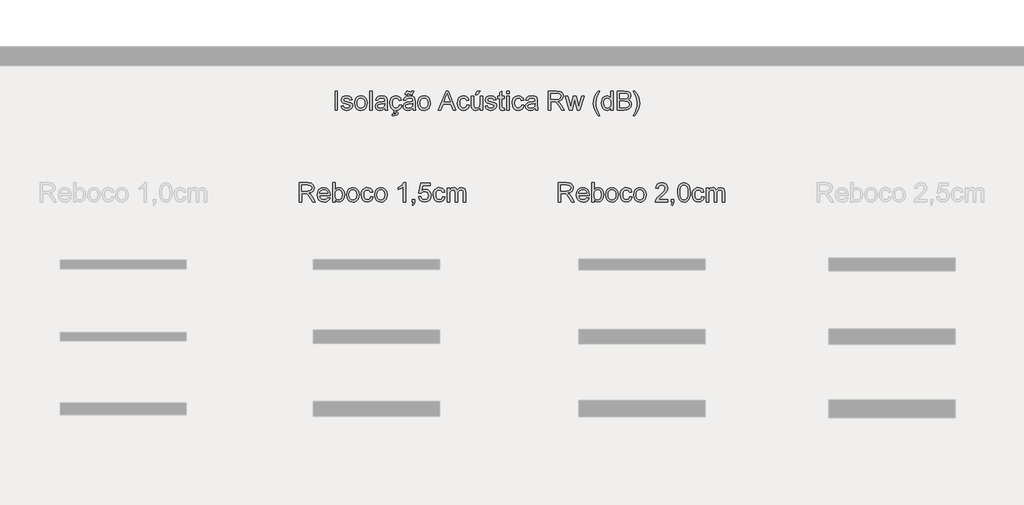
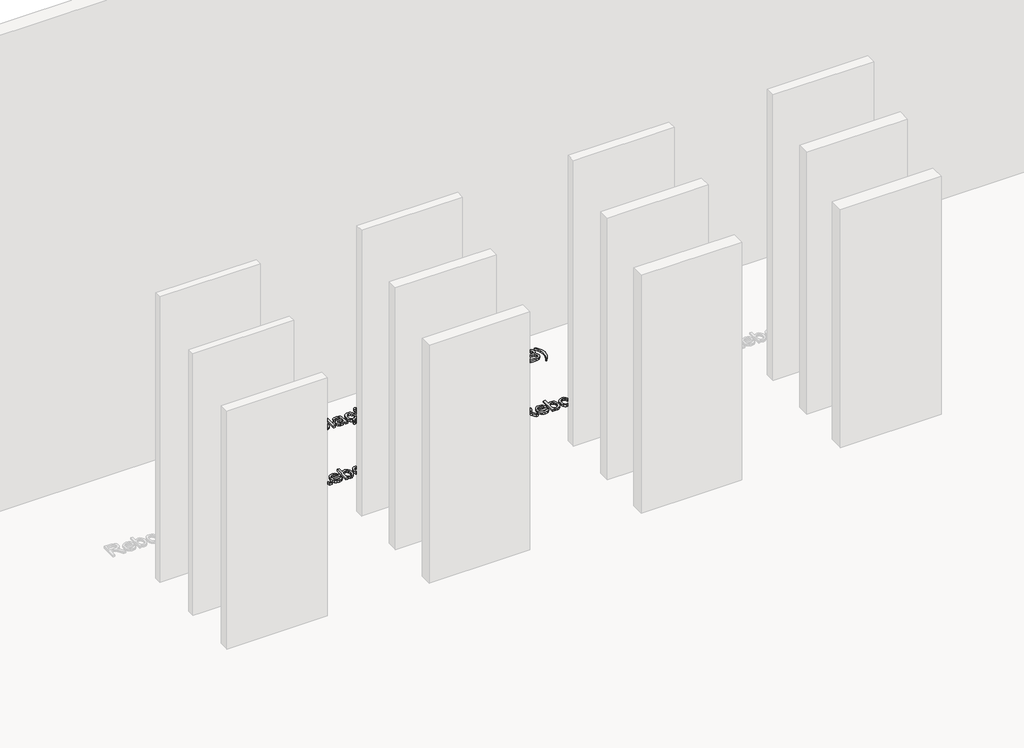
# One storey, part 25 of 26: 3 proxies.
"""IFC4 building model written with IfcOpenShell, lengths in millimetres."""

from ifc_helpers import new_model, si_unit, origin, origin_with_axes, place, context, project, spatial, polyline, outline, extrude, element, save

model = new_model("IFC4")

# Units and contexts
model_context = context("Model", 3, world=origin())
ifc_project = project(units=[si_unit("LENGTHUNIT", "METRE", prefix="MILLI")], contexts=[model_context])

# Site, building, storey
site = spatial("IfcSite", under=ifc_project)
building = spatial("IfcBuilding", under=site)
storey = spatial("IfcBuildingStorey", under=building, Name="Catálogo Celucon", Elevation=0.0)

# Proxies
placement = place(None, origin())
element("IfcBuildingElementProxy", 1, Name="Legenda Tabela de Módulos", ObjectType="Legenda Tabela de Módulos", at=placement, inside=storey, context=model_context, shape_type="SweptSolid", body=[
    extrude(outline(polyline([(12641.6922866, 1853.8954164), (12641.6922866, 2004.5798816), (12660.5278447, 2004.5798816), (12660.5278447, 1853.8954164), (12641.6922866, 1853.8954164)])), origin_with_axes(), (0.0, 0.0, 1.0), 20.0),
    extrude(outline(polyline([(12688.7811819, 1886.8576432), (12707.6167401, 1889.2120879), (12710.5873872, 1881.1554722), (12716.3355434, 1875.2325721), (12736.3115357, 1870.3765298), (12755.5149759, 1874.8279019), (12761.7689698, 1885.2757506), (12760.1962743, 1890.0766106), (12755.4781877, 1893.7370365), (12736.0908065, 1899.1081136), (12707.7271047, 1908.3235576), (12695.3478756, 1919.0841059), (12691.1356267, 1934.2776323), (12694.5201411, 1948.3123305), (12703.7539791, 1959.0360906), (12715.7285381, 1964.6095028), (12731.93374, 1966.9087653), (12754.8527883, 1963.2115513), (12769.4209153, 1953.205161), (12775.8956384, 1936.3009833), (12757.0600803, 1933.9465386), (12749.9783518, 1944.3392049), (12733.405268, 1948.0732072), (12715.3790502, 1944.5047518), (12709.9711849, 1936.1906187), (12712.215265, 1930.709177), (12719.2418111, 1926.5521104), (12735.4654071, 1922.5421967), (12763.1117391, 1913.6762406), (12775.9508207, 1903.6330621), (12780.6045279, 1887.2623134), (12775.1414803, 1869.2360956), (12759.3777368, 1856.1578907), (12736.0540183, 1851.5409716), (12717.0621103, 1853.7666577), (12703.2021562, 1860.4437159), (12693.949924, 1871.4985699), (12688.7811819, 1886.8576432)])), origin_with_axes(), (0.0, 0.0, 1.0), 20.0),
    extrude(outline(polyline([(12797.0856413, 1909.2248685), (12801.1599344, 1935.9055102), (12813.3828137, 1954.6582949), (12828.4843696, 1963.8461477), (12846.5657697, 1966.9087653), (12866.3532225, 1963.1793616), (12882.1583527, 1951.9911504), (12892.5188294, 1934.2270486), (12895.9723216, 1910.7699729), (12894.4456113, 1891.7412767), (12889.8654805, 1877.2559231), (12882.3652863, 1866.4080028), (12872.078386, 1858.2916062), (12859.8601053, 1853.2286303), (12846.5657697, 1851.5409716), (12826.5391936, 1855.2565798), (12810.7524574, 1866.4034042), (12800.5023454, 1884.5399866), (12797.0856413, 1909.2248685)]), holes=[polyline([(12815.9211995, 1909.2616567), (12818.1009003, 1892.2149247), (12824.6400028, 1880.0702204), (12834.4808461, 1872.7999524), (12846.5657697, 1870.3765298), (12858.5955109, 1872.813748), (12868.4179602, 1880.1254027), (12874.9570627, 1892.4310554), (12877.1367635, 1909.8502679), (12874.9432671, 1926.4003591), (12868.3627779, 1938.3795166), (12858.526533, 1945.6497845), (12846.5657697, 1948.0732072), (12834.4808461, 1945.6589816), (12824.6400028, 1938.4163048), (12818.1009003, 1926.2991916), (12815.9211995, 1909.2616567)])]), origin_with_axes(), (0.0, 0.0, 1.0), 20.0),
    extrude(outline(polyline([(12917.1623246, 1853.8954164), (12917.1623246, 2004.5798816), (12935.9978827, 2004.5798816), (12935.9978827, 1853.8954164), (12917.1623246, 1853.8954164)])), origin_with_axes(), (0.0, 0.0, 1.0), 20.0),
    extrude(outline(polyline([(13034.884563, 1868.022085), (13016.6192219, 1855.2565798), (12996.4408945, 1851.5409716), (12980.7001436, 1853.7758548), (12969.0888682, 1860.4805041), (12961.9289648, 1870.6616383), (12959.5423304, 1883.325976), (12963.1475739, 1898.2251968), (12972.6205353, 1909.0409275), (12985.8091049, 1915.221345), (13002.1062772, 1918.0540364), (13034.7741984, 1924.5287595), (13034.884563, 1928.7226142), (13033.587779, 1937.1287178), (13029.6974269, 1942.6285536), (13020.9970177, 1946.7120438), (13008.8753059, 1948.0732072), (12989.8190186, 1944.4495695), (12980.7323333, 1931.5920938), (12961.8967752, 1933.9465386), (12970.0453614, 1952.3406383), (12986.4528983, 1963.1195808), (13011.3033271, 1966.9087653), (13034.1304049, 1963.5610392), (13047.0246688, 1955.1549356), (13052.8004162, 1942.3710362), (13053.7201212, 1925.8899229), (13053.7201212, 1902.4558398), (13054.6766143, 1869.7327363), (13058.4290107, 1853.8954164), (13039.5934525, 1853.8954164), (13034.884563, 1868.022085)]), holes=[polyline([(13034.884563, 1905.6932013), (13004.4975102, 1899.917454), (12988.2923083, 1896.8640334), (12980.9530625, 1891.8976265), (12978.3778885, 1884.6503512), (12983.988089, 1874.4600199), (13000.4508083, 1870.3765298), (13019.5070956, 1874.8830842), (13031.7943542, 1885.7907854), (13034.7741984, 1900.3589124), (13034.884563, 1905.6932013)])]), origin_with_axes(), (0.0, 0.0, 1.0), 20.0),
    extrude(outline(polyline([(13150.2523567, 1893.9209775), (13169.0879148, 1891.5665327), (13163.8363994, 1874.8141064), (13153.9679648, 1862.1543672), (13140.4115133, 1854.1943205), (13123.6043533, 1851.6317985), (13120.9689499, 1843.6682969), (13135.7026238, 1838.6651018), (13140.8345776, 1829.6519929), (13138.9767735, 1822.9013583), (13133.4033613, 1816.9968523), (13124.0775527, 1812.885771), (13110.9625596, 1811.5154106), (13096.100127, 1811.5154106), (13096.100127, 1823.2876344), (13106.5111875, 1823.2876344), (13121.1528909, 1825.4581382), (13124.3534642, 1829.5048401), (13123.0658773, 1832.1719846), (13118.3018054, 1834.1585474), (13107.2837397, 1835.0598582), (13112.5205541, 1853.679643), (13104.0601737, 1855.2427842), (13088.3929992, 1866.3482219), (13078.2808429, 1884.3698412), (13074.9101241, 1908.8201983), (13076.3494624, 1925.5818217), (13080.6674773, 1940.108562), (13087.9331467, 1951.8393991), (13098.2154485, 1960.213313), (13110.5165027, 1965.2349022), (13123.8384294, 1966.9087653), (13139.7539243, 1964.6095028), (13152.4780428, 1957.7117154), (13161.6061148, 1946.5832851), (13166.7334701, 1931.5920938), (13147.8979119, 1929.237649), (13139.1607145, 1943.3459235), (13123.9855822, 1948.0732072), (13111.8132867, 1945.7463535), (13102.1517858, 1938.7657927), (13095.8472081, 1926.7544455), (13093.7456822, 1909.3352331), (13095.8012229, 1891.6814958), (13101.9678448, 1879.628762), (13111.4546018, 1872.6895878), (13123.4705474, 1870.3765298), (13133.2240188, 1871.8204666), (13141.2208537, 1876.1522771), (13147.0379878, 1883.4823259), (13150.2523567, 1893.9209775)])), origin_with_axes(), (0.0, 0.0, 1.0), 20.0),
    extrude(outline(polyline([(13256.2023713, 1868.022085), (13237.9370302, 1855.2565798), (13217.7587028, 1851.5409716), (13202.0179519, 1853.7758548), (13190.4066765, 1860.4805041), (13183.2467731, 1870.6616383), (13180.8601387, 1883.325976), (13184.4653822, 1898.2251968), (13193.9383436, 1909.0409275), (13207.1269131, 1915.221345), (13223.4240855, 1918.0540364), (13256.0920067, 1924.5287595), (13256.2023713, 1928.7226142), (13254.9055873, 1937.1287178), (13251.0152352, 1942.6285536), (13242.314826, 1946.7120438), (13230.1931142, 1948.0732072), (13211.1368269, 1944.4495695), (13202.0501416, 1931.5920938), (13183.2145835, 1933.9465386), (13191.3631697, 1952.3406383), (13207.7707066, 1963.1195808), (13232.6211354, 1966.9087653), (13255.4482132, 1963.5610392), (13268.3424771, 1955.1549356), (13274.1182245, 1942.3710362), (13275.0379295, 1925.8899229), (13275.0379295, 1902.4558398), (13275.9944226, 1869.7327363), (13279.746819, 1853.8954164), (13260.9112608, 1853.8954164), (13256.2023713, 1868.022085)]), holes=[polyline([(13256.2023713, 1905.6932013), (13225.8153185, 1899.917454), (13209.6101166, 1896.8640334), (13202.2708708, 1891.8976265), (13199.6956968, 1884.6503512), (13205.3058973, 1874.4600199), (13221.7686166, 1870.3765298), (13240.8249039, 1874.8830842), (13253.1121625, 1885.7907854), (13256.0920067, 1900.3589124), (13256.2023713, 1905.6932013)])]), origin_with_axes(), (0.0, 0.0, 1.0), 20.0),
    extrude(outline(polyline([(13197.3412521, 1976.3265444), (13198.7667948, 1987.9056302), (13203.1905758, 1996.8911479), (13209.858437, 2002.6576982), (13218.163373, 2004.5798816), (13233.2465348, 1998.5098287), (13240.8616921, 1995.1621025), (13244.8532118, 1997.0566948), (13246.7845922, 2004.5798816), (13263.2657056, 2004.5798816), (13261.6240322, 1992.2190466), (13257.2876232, 1983.3898787), (13250.8358927, 1978.092378), (13242.8482549, 1976.3265444), (13227.9490341, 1982.0655035), (13220.002783, 1985.7443235), (13215.5146226, 1983.3530905), (13213.8223655, 1976.3265444), (13197.3412521, 1976.3265444)])), origin_with_axes(), (0.0, 0.0, 1.0), 20.0),
    extrude(outline(polyline([(13296.2279324, 1909.2248685), (13300.3022255, 1935.9055102), (13312.5251048, 1954.6582949), (13327.6266607, 1963.8461477), (13345.7080607, 1966.9087653), (13365.4955135, 1963.1793616), (13381.3006438, 1951.9911504), (13391.6611205, 1934.2270486), (13395.1146127, 1910.7699729), (13393.5879024, 1891.7412767), (13389.0077716, 1877.2559231), (13381.5075774, 1866.4080028), (13371.2206771, 1858.2916062), (13359.0023963, 1853.2286303), (13345.7080607, 1851.5409716), (13325.6814846, 1855.2565798), (13309.8947485, 1866.4034042), (13299.6446364, 1884.5399866), (13296.2279324, 1909.2248685)]), holes=[polyline([(13315.0634905, 1909.2616567), (13317.2431914, 1892.2149247), (13323.7822938, 1880.0702204), (13333.6231372, 1872.7999524), (13345.7080607, 1870.3765298), (13357.737802, 1872.813748), (13367.5602512, 1880.1254027), (13374.0993537, 1892.4310554), (13376.2790545, 1909.8502679), (13374.0855581, 1926.4003591), (13367.5050689, 1938.3795166), (13357.6688241, 1945.6497845), (13345.7080607, 1948.0732072), (13333.6231372, 1945.6589816), (13323.7822938, 1938.4163048), (13317.2431914, 1926.2991916), (13315.0634905, 1909.2616567)])]), origin_with_axes(), (0.0, 0.0, 1.0), 20.0),
    extrude(outline(polyline([(13459.9722084, 1853.8954164), (13520.1209146, 2004.5798816), (13536.1605696, 2004.5798816), (13596.3092758, 1853.8954164), (13576.4068599, 1853.8954164), (13559.1531943, 1900.9843118), (13497.0915017, 1900.9843118), (13479.8746244, 1853.8954164), (13459.9722084, 1853.8954164)]), holes=[polyline([(13504.0076833, 1919.8198699), (13552.273801, 1919.8198699), (13538.6989554, 1956.8655869), (13528.1407421, 1985.7443235), (13518.7597513, 1960.1029484), (13504.0076833, 1919.8198699)])]), origin_with_axes(), (0.0, 0.0, 1.0), 20.0),
    extrude(outline(polyline([(13684.7113193, 1893.9209775), (13703.5468774, 1891.5665327), (13698.295362, 1874.8141064), (13688.4269274, 1862.1543672), (13674.8704759, 1854.1943205), (13658.5549094, 1851.5409716), (13638.5191363, 1855.2427842), (13622.8519618, 1866.3482219), (13612.7398055, 1884.3698412), (13609.3690867, 1908.8201983), (13610.808425, 1925.5818217), (13615.1264399, 1940.108562), (13622.3921093, 1951.8393991), (13632.6744111, 1960.213313), (13644.9754653, 1965.2349022), (13658.297392, 1966.9087653), (13674.2128869, 1964.6095028), (13686.9370054, 1957.7117154), (13696.0650774, 1946.5832851), (13701.1924327, 1931.5920938), (13682.3568745, 1929.237649), (13673.6196771, 1943.3459235), (13658.4445448, 1948.0732072), (13646.2722493, 1945.7463535), (13636.6107484, 1938.7657927), (13630.3061707, 1926.7544455), (13628.2046448, 1909.3352331), (13630.2601855, 1891.6814958), (13636.4268074, 1879.628762), (13645.9135644, 1872.6895878), (13657.92951, 1870.3765298), (13667.6829814, 1871.8204666), (13675.6798163, 1876.1522771), (13681.4969504, 1883.4823259), (13684.7113193, 1893.9209775)])), origin_with_axes(), (0.0, 0.0, 1.0), 20.0),
    extrude(outline(polyline([(13790.6613339, 1853.8954164), (13790.6613339, 1872.9149156), (13775.9092659, 1856.8844576), (13756.6690375, 1851.5409716), (13738.9555195, 1855.293368), (13726.7418372, 1864.7111471), (13721.1316368, 1878.5802983), (13720.0279908, 1896.0914812), (13720.0279908, 1964.5543206), (13738.863549, 1964.5543206), (13738.863549, 1904.9574373), (13740.0039832, 1885.7539972), (13747.4535936, 1874.478414), (13761.4882917, 1870.3765298), (13777.215247, 1874.5703845), (13787.6079133, 1885.9931205), (13790.6613339, 1906.9807883), (13790.6613339, 1964.5543206), (13809.4968921, 1964.5543206), (13809.4968921, 1853.8954164), (13790.6613339, 1853.8954164)])), origin_with_axes(), (0.0, 0.0, 1.0), 20.0),
    extrude(outline(polyline([(13752.9902176, 1976.3265444), (13767.1168862, 2004.5798816), (13790.6613339, 2004.5798816), (13767.1168862, 1976.3265444), (13752.9902176, 1976.3265444)])), origin_with_axes(), (0.0, 0.0, 1.0), 20.0),
    extrude(outline(polyline([(13828.3324502, 1886.8576432), (13847.1680084, 1889.2120879), (13850.1386555, 1881.1554722), (13855.8868116, 1875.2325721), (13875.862804, 1870.3765298), (13895.0662441, 1874.8279019), (13901.320238, 1885.2757506), (13899.7475425, 1890.0766106), (13895.0294559, 1893.7370365), (13875.6420748, 1899.1081136), (13847.278373, 1908.3235576), (13834.8991438, 1919.0841059), (13830.686895, 1934.2776323), (13834.0714093, 1948.3123305), (13843.3052474, 1959.0360906), (13855.2798064, 1964.6095028), (13871.4850082, 1966.9087653), (13894.4040565, 1963.2115513), (13908.9721835, 1953.205161), (13915.4469067, 1936.3009833), (13896.6113485, 1933.9465386), (13889.5296201, 1944.3392049), (13872.9565362, 1948.0732072), (13854.9303185, 1944.5047518), (13849.5224531, 1936.1906187), (13851.7665333, 1930.709177), (13858.7930794, 1926.5521104), (13875.0166754, 1922.5421967), (13902.6630073, 1913.6762406), (13915.502089, 1903.6330621), (13920.1557962, 1887.2623134), (13914.6927486, 1869.2360956), (13898.9290051, 1856.1578907), (13875.6052866, 1851.5409716), (13856.6133786, 1853.7666577), (13842.7534244, 1860.4437159), (13833.5011922, 1871.4985699), (13828.3324502, 1886.8576432)])), origin_with_axes(), (0.0, 0.0, 1.0), 20.0),
    extrude(outline(polyline([(13981.3713602, 1869.6039776), (13983.725805, 1853.3435934), (13969.6359246, 1851.5409716), (13953.853787, 1854.6679686), (13945.9811123, 1862.8717371), (13943.7002439, 1884.245681), (13943.7002439, 1945.7187624), (13929.5735753, 1945.7187624), (13929.5735753, 1964.5543206), (13943.7002439, 1964.5543206), (13943.7002439, 1991.4464944), (13962.535802, 2002.5197425), (13962.535802, 1964.5543206), (13981.3713602, 1964.5543206), (13981.3713602, 1945.7187624), (13962.535802, 1945.7187624), (13962.535802, 1884.797504), (13963.5290834, 1875.0854193), (13966.7480509, 1871.6457227), (13973.1675917, 1870.3765298), (13981.3713602, 1869.6039776)])), origin_with_axes(), (0.0, 0.0, 1.0), 20.0),
    extrude(outline(polyline([(14000.2069184, 1985.7443235), (14000.2069184, 2004.5798816), (14019.0424765, 2004.5798816), (14019.0424765, 1985.7443235), (14000.2069184, 1985.7443235)])), origin_with_axes(), (0.0, 0.0, 1.0), 20.0),
    extrude(outline(polyline([(14000.2069184, 1853.8954164), (14000.2069184, 1964.5543206), (14019.0424765, 1964.5543206), (14019.0424765, 1853.8954164), (14000.2069184, 1853.8954164)])), origin_with_axes(), (0.0, 0.0, 1.0), 20.0),
    extrude(outline(polyline([(14117.9291568, 1893.9209775), (14136.764715, 1891.5665327), (14131.5131995, 1874.8141064), (14121.644765, 1862.1543672), (14108.0883134, 1854.1943205), (14091.772747, 1851.5409716), (14071.7369738, 1855.2427842), (14056.0697993, 1866.3482219), (14045.957643, 1884.3698412), (14042.5869242, 1908.8201983), (14044.0262625, 1925.5818217), (14048.3442774, 1940.108562), (14055.6099468, 1951.8393991), (14065.8922486, 1960.213313), (14078.1933028, 1965.2349022), (14091.5152296, 1966.9087653), (14107.4307244, 1964.6095028), (14120.1548429, 1957.7117154), (14129.2829149, 1946.5832851), (14134.4102702, 1931.5920938), (14115.574712, 1929.237649), (14106.8375147, 1943.3459235), (14091.6623824, 1948.0732072), (14079.4900868, 1945.7463535), (14069.8285859, 1938.7657927), (14063.5240082, 1926.7544455), (14061.4224823, 1909.3352331), (14063.478023, 1891.6814958), (14069.6446449, 1879.628762), (14079.1314019, 1872.6895878), (14091.1473476, 1870.3765298), (14100.900819, 1871.8204666), (14108.8976538, 1876.1522771), (14114.7147879, 1883.4823259), (14117.9291568, 1893.9209775)])), origin_with_axes(), (0.0, 0.0, 1.0), 20.0),
    extrude(outline(polyline([(14223.8791714, 1868.022085), (14205.6138304, 1855.2565798), (14185.4355029, 1851.5409716), (14169.6947521, 1853.7758548), (14158.0834766, 1860.4805041), (14150.9235733, 1870.6616383), (14148.5369388, 1883.325976), (14152.1421824, 1898.2251968), (14161.6151437, 1909.0409275), (14174.8037133, 1915.221345), (14191.1008856, 1918.0540364), (14223.7688068, 1924.5287595), (14223.8791714, 1928.7226142), (14222.5823874, 1937.1287178), (14218.6920353, 1942.6285536), (14209.9916261, 1946.7120438), (14197.8699144, 1948.0732072), (14178.813627, 1944.4495695), (14169.7269417, 1931.5920938), (14150.8913836, 1933.9465386), (14159.0399698, 1952.3406383), (14175.4475068, 1963.1195808), (14200.2979355, 1966.9087653), (14223.1250133, 1963.5610392), (14236.0192773, 1955.1549356), (14241.7950246, 1942.3710362), (14242.7147296, 1925.8899229), (14242.7147296, 1902.4558398), (14243.6712228, 1869.7327363), (14247.4236191, 1853.8954164), (14228.588061, 1853.8954164), (14223.8791714, 1868.022085)]), holes=[polyline([(14223.8791714, 1905.6932013), (14193.4921186, 1899.917454), (14177.2869167, 1896.8640334), (14169.9476709, 1891.8976265), (14167.372497, 1884.6503512), (14172.9826974, 1874.4600199), (14189.4454167, 1870.3765298), (14208.501704, 1874.8830842), (14220.7889627, 1885.7907854), (14223.7688068, 1900.3589124), (14223.8791714, 1905.6932013)])]), origin_with_axes(), (0.0, 0.0, 1.0), 20.0),
    extrude(outline(polyline([(14329.829186, 1853.8954164), (14329.829186, 2004.5798816), (14394.7603582, 2004.5798816), (14424.9082877, 2000.5147856), (14434.188111, 1994.8861911), (14441.3894011, 1986.1305996), (14446.0109186, 1975.2734822), (14447.5514245, 1963.34031), (14444.9992431, 1948.4962715), (14437.3426991, 1936.1906187), (14424.3518662, 1927.1683128), (14405.796818, 1922.1743147), (14416.5021841, 1914.117699), (14431.7692869, 1894.7303179), (14456.8956272, 1853.8954164), (14435.0066485, 1853.8954164), (14415.3985381, 1885.1285978), (14401.2350813, 1905.8035659), (14391.2838733, 1915.5708329), (14382.3259467, 1919.1576823), (14371.3998515, 1919.8198699), (14348.6647442, 1919.8198699), (14348.6647442, 1853.8954164), (14329.829186, 1853.8954164)]), holes=[polyline([(14348.6647442, 1938.6554281), (14390.8240208, 1938.6554281), (14412.3267234, 1941.3225726), (14424.5404057, 1949.8574348), (14428.7158663, 1962.6413342), (14426.724705, 1971.829187), (14420.7512211, 1979.2328122), (14410.4735179, 1984.1164456), (14395.5696986, 1985.7443235), (14348.6647442, 1985.7443235), (14348.6647442, 1938.6554281)])]), origin_with_axes(), (0.0, 0.0, 1.0), 20.0),
    extrude(outline(polyline([(14496.516518, 1853.8954164), (14462.8553155, 1964.5543206), (14482.4266376, 1964.5543206), (14501.5197132, 1899.9910304), (14507.2218841, 1876.9248293), (14511.8939854, 1899.1449018), (14527.0875118, 1964.5543206), (14549.5283135, 1964.5543206), (14564.6482636, 1899.3288428), (14568.8053301, 1879.2056977), (14574.7650184, 1900.4324888), (14593.8948822, 1964.5543206), (14613.5397807, 1964.5543206), (14579.6210608, 1853.8954164), (14556.8491653, 1853.8954164), (14542.3914028, 1918.7898004), (14538.1975481, 1939.0233101), (14519.5459309, 1853.8954164), (14496.516518, 1853.8954164)])), origin_with_axes(), (0.0, 0.0, 1.0), 20.0),
    extrude(outline(polyline([(14723.0214625, 1811.5154106), (14708.4257443, 1831.9972406), (14696.2764414, 1855.6980382), (14688.08187, 1881.4681719), (14685.3503462, 1908.1580107), (14687.3920912, 1931.5645026), (14693.5173265, 1953.9593191), (14705.6758264, 1979.3247827), (14723.0214625, 2004.5798816), (14737.1481311, 2004.5798816), (14719.5265835, 1974.7446518), (14708.9315821, 1945.829127), (14704.1859043, 1908.0476461), (14706.2460435, 1883.9007916), (14712.426461, 1859.7631342), (14722.7271569, 1835.6346739), (14737.1481311, 1811.5154106), (14723.0214625, 1811.5154106)])), origin_with_axes(), (0.0, 0.0, 1.0), 20.0),
    extrude(outline(polyline([(14824.2625875, 1853.8954164), (14824.2625875, 1871.6641168), (14811.800585, 1856.5717579), (14794.5745105, 1851.5409716), (14782.3976165, 1853.3619875), (14771.250792, 1858.8250351), (14761.8146189, 1867.5484369), (14754.7696787, 1879.1505154), (14750.3826859, 1893.1622209), (14748.9203549, 1909.1145039), (14754.3098262, 1939.0968865), (14761.0420667, 1950.988672), (14770.4598458, 1959.7350664), (14781.850392, 1965.1153406), (14794.5009341, 1966.9087653), (14811.8649643, 1961.7768115), (14824.2625875, 1948.4410892), (14824.2625875, 2004.5798816), (14843.0981457, 2004.5798816), (14843.0981457, 1853.8954164), (14824.2625875, 1853.8954164)]), holes=[polyline([(14767.7559131, 1909.1880803), (14769.8804316, 1892.1505454), (14776.2539872, 1880.0334322), (14785.5154164, 1872.7907554), (14796.3035559, 1870.3765298), (14807.0870969, 1872.6803908), (14816.1140014, 1879.5919738), (14822.225441, 1891.2400374), (14824.2625875, 1907.7533405), (14822.1886528, 1925.8071494), (14815.9668486, 1938.3243343), (14806.7100179, 1945.6359889), (14795.5310037, 1948.0732072), (14784.6324996, 1945.732558), (14775.7021642, 1938.7106104), (14769.7424759, 1926.6486795), (14767.7559131, 1909.1880803)])]), origin_with_axes(), (0.0, 0.0, 1.0), 20.0),
    extrude(outline(polyline([(14873.7059277, 1853.8954164), (14873.7059277, 2004.5798816), (14931.2058835, 2004.5798816), (14959.3672503, 2000.1469036), (14968.8310146, 1994.5229076), (14975.9955165, 1986.5168757), (14982.0103871, 1967.2398591), (14976.9520096, 1949.6367056), (14961.6665127, 1936.3009833), (14972.3396891, 1930.7275711), (14980.2261594, 1922.2478911), (14985.0959973, 1911.4229634), (14986.7192766, 1898.813808), (14982.2862986, 1878.5619042), (14971.305021, 1864.14093), (14954.9158781, 1856.4889845), (14930.7644252, 1853.8954164), (14873.7059277, 1853.8954164)]), holes=[polyline([(14892.5414859, 1943.3643176), (14926.9384524, 1943.3643176), (14947.0248093, 1944.9829984), (14959.1097329, 1951.9543622), (14963.1748289, 1964.2232268), (14959.3856444, 1976.5104854), (14948.5331255, 1983.7761548), (14924.3264902, 1985.7443235), (14892.5414859, 1985.7443235), (14892.5414859, 1943.3643176)]), polyline([(14892.5414859, 1872.7309746), (14931.1690953, 1872.7309746), (14945.1486112, 1873.4667385), (14956.9760173, 1877.5686228), (14964.8119038, 1885.9379382), (14967.8837185, 1898.629867), (14964.2784749, 1913.2715704), (14952.5982216, 1922.0087678), (14929.3296854, 1924.5287595), (14892.5414859, 1924.5287595), (14892.5414859, 1872.7309746)])]), origin_with_axes(), (0.0, 0.0, 1.0), 20.0),
    extrude(outline(polyline([(15014.9726138, 1811.5154106), (15000.8459452, 1811.5154106), (15015.2669194, 1835.6346739), (15025.5676153, 1859.7631342), (15031.7480328, 1883.9007916), (15033.808172, 1908.0476461), (15029.0624943, 1945.4980332), (15018.5778574, 1974.4503462), (15000.8459452, 2004.5798816), (15014.9726138, 2004.5798816), (15032.3182499, 1979.3247827), (15044.4767499, 1953.9593191), (15050.6019851, 1931.5645026), (15052.6437302, 1908.1580107), (15049.8984108, 1881.4681719), (15041.6624526, 1855.6980382), (15029.4993541, 1831.9972406), (15014.9726138, 1811.5154106)])), origin_with_axes(), (0.0, 0.0, 1.0), 20.0),
])
element("IfcBuildingElementProxy", 2, Name="Legenda Tabela de Módulos", ObjectType="Legenda Tabela de Módulos", at=placement, inside=storey, context=model_context, shape_type="SweptSolid", body=[
    extrude(outline(polyline([(12358.7723044, 1127.4713313), (12358.7723044, 1278.1557966), (12423.7034766, 1278.1557966), (12453.8514061, 1274.0907005), (12463.1312294, 1268.462106), (12470.3325195, 1259.7065145), (12474.954037, 1248.8493971), (12476.4945429, 1236.9162249), (12473.9423616, 1222.0721864), (12466.2858175, 1209.7665337), (12453.2949846, 1200.7442277), (12434.7399364, 1195.7502297), (12445.4453025, 1187.693614), (12460.7124053, 1168.3062328), (12485.8387456, 1127.4713313), (12463.9497669, 1127.4713313), (12444.3416565, 1158.7045127), (12430.1781997, 1179.3794809), (12420.2269917, 1189.1467478), (12411.2690651, 1192.7335973), (12400.3429699, 1193.3957849), (12377.6078626, 1193.3957849), (12377.6078626, 1127.4713313), (12358.7723044, 1127.4713313)]), holes=[polyline([(12377.6078626, 1212.231343), (12419.7671392, 1212.231343), (12441.2698419, 1214.8984875), (12453.4835241, 1223.4333498), (12457.6589847, 1236.2172491), (12455.6678234, 1245.405102), (12449.6943395, 1252.8087271), (12439.4166363, 1257.6923606), (12424.512817, 1259.3202384), (12377.6078626, 1259.3202384), (12377.6078626, 1212.231343)])]), origin_with_axes(), (0.0, 0.0, 1.0), 20.0),
    extrude(outline(polyline([(12584.5782731, 1160.4335581), (12603.0459492, 1158.0791133), (12596.3918836, 1144.1639769), (12585.7738896, 1133.7621135), (12571.4310903, 1127.2781933), (12553.6026091, 1125.1168866), (12531.5020982, 1128.8462903), (12514.496753, 1140.0345015), (12503.6534312, 1157.9549532), (12500.0389906, 1181.8810784), (12503.6902194, 1206.6119456), (12514.6439058, 1225.1072129), (12531.4193248, 1236.6403134), (12552.5357513, 1240.4846803), (12572.9945888, 1236.6495105), (12589.3423449, 1225.1440011), (12600.0615065, 1206.685522), (12603.6345604, 1181.991443), (12603.5241958, 1176.9146715), (12518.8745487, 1176.9146715), (12522.1349029, 1162.815594), (12529.7086735, 1152.4505188), (12540.6393673, 1146.0769633), (12553.9704911, 1143.9524447), (12572.4381672, 1147.8887821), (12584.5782731, 1160.4335581)]), holes=[polyline([(12518.8745487, 1195.7502297), (12584.7990023, 1195.7502297), (12582.2514195, 1205.7014376), (12577.2574214, 1212.8199542), (12566.2761438, 1219.4418301), (12552.4621749, 1221.6491221), (12539.7656475, 1219.8878871), (12529.2672151, 1214.6041819), (12521.969356, 1206.3682237), (12518.8745487, 1195.7502297)])]), origin_with_axes(), (0.0, 0.0, 1.0), 20.0),
    extrude(outline(polyline([(12641.3056767, 1127.4713313), (12622.4701186, 1127.4713313), (12622.4701186, 1278.1557966), (12641.3056767, 1278.1557966), (12641.3056767, 1222.2745215), (12654.4942463, 1235.9321406), (12670.8833891, 1240.4846803), (12689.7557355, 1236.382796), (12704.3974389, 1224.8496955), (12713.3921537, 1206.9154482), (12716.6479093, 1184.4562524), (12713.2771906, 1159.311518), (12703.1650342, 1140.6047186), (12688.3255942, 1128.9888446), (12670.7730245, 1125.1168866), (12654.0251967, 1130.1108847), (12641.3056767, 1145.0928789), (12641.3056767, 1127.4713313)]), holes=[polyline([(12641.3056767, 1183.5733356), (12642.5932637, 1167.8647744), (12646.4560247, 1157.2329848), (12656.3244592, 1147.2725797), (12669.1543438, 1143.9524447), (12680.0252567, 1146.39886), (12689.3142771, 1153.7381058), (12695.6878327, 1165.9241969), (12697.8123512, 1182.911148), (12695.7752046, 1200.1464195), (12689.663765, 1212.1945548), (12680.6644517, 1219.2854803), (12669.9636842, 1221.6491221), (12659.0927712, 1219.2027068), (12649.8037508, 1211.863461), (12643.4301953, 1199.8980991), (12641.3056767, 1183.5733356)])]), origin_with_axes(), (0.0, 0.0, 1.0), 20.0),
    extrude(outline(polyline([(12733.1290227, 1182.8007834), (12737.2033158, 1209.4814251), (12749.4261951, 1228.2342098), (12764.527751, 1237.4220627), (12782.6091511, 1240.4846803), (12802.3966039, 1236.7552765), (12818.2017341, 1225.5670654), (12828.5622108, 1207.8029635), (12832.015703, 1184.3458878), (12830.4889928, 1165.3171916), (12825.9088619, 1150.831838), (12818.4086677, 1139.9839177), (12808.1217674, 1131.8675212), (12795.9034867, 1126.8045452), (12782.6091511, 1125.1168866), (12762.582575, 1128.8324947), (12746.7958388, 1139.9793192), (12736.5457268, 1158.1159015), (12733.1290227, 1182.8007834)]), holes=[polyline([(12751.9645809, 1182.8375716), (12754.1442817, 1165.7908397), (12760.6833842, 1153.6461353), (12770.5242275, 1146.3758674), (12782.6091511, 1143.9524447), (12794.6388923, 1146.3896629), (12804.4613416, 1153.7013176), (12811.0004441, 1166.0069703), (12813.1801449, 1183.4261828), (12810.9866485, 1199.9762741), (12804.4061593, 1211.9554315), (12794.5699144, 1219.2256995), (12782.6091511, 1221.6491221), (12770.5242275, 1219.2348965), (12760.6833842, 1211.9922197), (12754.1442817, 1199.8751065), (12751.9645809, 1182.8375716)])]), origin_with_axes(), (0.0, 0.0, 1.0), 20.0),
    extrude(outline(polyline([(12923.839049, 1167.4968924), (12942.6746072, 1165.1424477), (12937.4230917, 1148.3900213), (12927.5546572, 1135.7302821), (12913.9982057, 1127.7702355), (12897.6826392, 1125.1168866), (12877.646866, 1128.8186992), (12861.9796915, 1139.9241369), (12851.8675352, 1157.9457561), (12848.4968164, 1182.3961132), (12849.9361547, 1199.1577366), (12854.2541696, 1213.6844769), (12861.519839, 1225.415314), (12871.8021408, 1233.789228), (12884.103195, 1238.8108172), (12897.4251218, 1240.4846803), (12913.3406166, 1238.1854178), (12926.0647351, 1231.2876304), (12935.1928071, 1220.1592), (12940.3201624, 1205.1680087), (12921.4846043, 1202.813564), (12912.7474069, 1216.9218385), (12897.5722746, 1221.6491221), (12885.3999791, 1219.3222685), (12875.7384782, 1212.3417076), (12869.4339005, 1200.3303605), (12867.3323746, 1182.911148), (12869.3879152, 1165.2574108), (12875.5545372, 1153.2046769), (12885.0412941, 1146.2655028), (12897.0572398, 1143.9524447), (12906.8107112, 1145.3963816), (12914.807546, 1149.7281921), (12920.6246801, 1157.0582408), (12923.839049, 1167.4968924)])), origin_with_axes(), (0.0, 0.0, 1.0), 20.0),
    extrude(outline(polyline([(12954.446831, 1182.8007834), (12958.5211241, 1209.4814251), (12970.7440034, 1228.2342098), (12985.8455593, 1237.4220627), (13003.9269594, 1240.4846803), (13023.7144122, 1236.7552765), (13039.5195424, 1225.5670654), (13049.8800191, 1207.8029635), (13053.3335113, 1184.3458878), (13051.8068011, 1165.3171916), (13047.2266702, 1150.831838), (13039.726476, 1139.9839177), (13029.4395757, 1131.8675212), (13017.221295, 1126.8045452), (13003.9269594, 1125.1168866), (12983.9003833, 1128.8324947), (12968.1136471, 1139.9793192), (12957.8635351, 1158.1159015), (12954.446831, 1182.8007834)]), holes=[polyline([(12973.2823892, 1182.8375716), (12975.46209, 1165.7908397), (12982.0011925, 1153.6461353), (12991.8420358, 1146.3758674), (13003.9269594, 1143.9524447), (13015.9567006, 1146.3896629), (13025.7791499, 1153.7013176), (13032.3182524, 1166.0069703), (13034.4979532, 1183.4261828), (13032.3044568, 1199.9762741), (13025.7239676, 1211.9554315), (13015.8877227, 1219.2256995), (13003.9269594, 1221.6491221), (12991.8420358, 1219.2348965), (12982.0011925, 1211.9922197), (12975.46209, 1199.8751065), (12973.2823892, 1182.8375716)])]), origin_with_axes(), (0.0, 0.0, 1.0), 20.0),
    extrude(outline(polyline([(13199.309087, 1127.4713313), (13180.4735289, 1127.4713313), (13180.4735289, 1244.8992642), (13162.6312521, 1232.1889413), (13142.8024126, 1222.6791917), (13142.8024126, 1240.4846803), (13170.4119563, 1258.1062278), (13187.1689812, 1278.1557966), (13199.309087, 1278.1557966), (13199.309087, 1127.4713313)])), origin_with_axes(), (0.0, 0.0, 1.0), 20.0),
    extrude(outline(polyline([(13253.4613167, 1127.4713313), (13253.4613167, 1146.3068895), (13272.2968749, 1146.3068895), (13272.2968749, 1127.4713313), (13268.9123605, 1108.2127089), (13258.1702062, 1096.8635493), (13253.4613167, 1103.9268837), (13260.3774982, 1112.0570758), (13262.8423076, 1127.4713313), (13253.4613167, 1127.4713313)])), origin_with_axes(), (0.0, 0.0, 1.0), 20.0),
    extrude(outline(polyline([(13302.9046569, 1167.4968924), (13321.740215, 1169.8513372), (13325.1983058, 1158.5435644), (13331.2315705, 1150.4455619), (13339.812418, 1145.575724), (13350.9132572, 1143.9524447), (13364.4145265, 1146.2103205), (13374.5312813, 1152.9839477), (13380.8496546, 1163.4915772), (13382.955779, 1176.9514597), (13380.9830118, 1189.6249944), (13375.0647102, 1199.318685), (13365.154889, 1205.4715114), (13351.2075628, 1207.5224535), (13334.6712671, 1204.2483037), (13324.0946598, 1195.7502297), (13305.2591016, 1198.1046744), (13321.740215, 1275.8013518), (13394.7280029, 1275.8013518), (13394.7280029, 1256.9657937), (13336.9705296, 1256.9657937), (13328.9139139, 1215.4687046), (13342.3691979, 1223.6356849), (13356.4682754, 1226.3580117), (13374.0668303, 1222.9826943), (13388.676344, 1212.8567424), (13398.5125889, 1197.4240927), (13401.7913372, 1178.1286821), (13398.8390842, 1159.2931239), (13389.9823251, 1143.1798925), (13373.0229651, 1129.6326381), (13350.8396808, 1125.1168866), (13332.339815, 1128.0185558), (13317.6015426, 1136.7235635), (13307.4985833, 1150.2202342), (13302.9046569, 1167.4968924)])), origin_with_axes(), (0.0, 0.0, 1.0), 20.0),
    extrude(outline(polyline([(13493.6146832, 1167.4968924), (13512.4502413, 1165.1424477), (13507.1987258, 1148.3900213), (13497.3302913, 1135.7302821), (13483.7738398, 1127.7702355), (13467.4582733, 1125.1168866), (13447.4225001, 1128.8186992), (13431.7553257, 1139.9241369), (13421.6431693, 1157.9457561), (13418.2724505, 1182.3961132), (13419.7117889, 1199.1577366), (13424.0298038, 1213.6844769), (13431.2954732, 1225.415314), (13441.5777749, 1233.789228), (13453.8788292, 1238.8108172), (13467.2007559, 1240.4846803), (13483.1162507, 1238.1854178), (13495.8403692, 1231.2876304), (13504.9684412, 1220.1592), (13510.0957965, 1205.1680087), (13491.2602384, 1202.813564), (13482.523041, 1216.9218385), (13467.3479087, 1221.6491221), (13455.1756132, 1219.3222685), (13445.5141123, 1212.3417076), (13439.2095346, 1200.3303605), (13437.1080087, 1182.911148), (13439.1635493, 1165.2574108), (13445.3301713, 1153.2046769), (13454.8169282, 1146.2655028), (13466.8328739, 1143.9524447), (13476.5863453, 1145.3963816), (13484.5831802, 1149.7281921), (13490.4003142, 1157.0582408), (13493.6146832, 1167.4968924)])), origin_with_axes(), (0.0, 0.0, 1.0), 20.0),
    extrude(outline(polyline([(13528.9313547, 1127.4713313), (13528.9313547, 1238.1302355), (13547.7669128, 1238.1302355), (13547.7669128, 1219.9200767), (13560.7163591, 1234.8376916), (13579.147247, 1240.4846803), (13589.6226868, 1239.045342), (13598.0195934, 1234.727327), (13608.3938657, 1218.5957016), (13623.0907514, 1235.0124356), (13641.650398, 1240.4846803), (13655.8092563, 1238.2084104), (13666.2800976, 1231.3796009), (13672.7502222, 1219.8143107), (13674.9069304, 1203.3285988), (13674.9069304, 1127.4713313), (13656.0713722, 1127.4713313), (13656.0713722, 1195.2351949), (13654.3239328, 1210.9621502), (13647.9963624, 1218.7060662), (13637.2358141, 1221.6491221), (13627.0316872, 1219.7637269), (13618.7129556, 1214.1075412), (13613.1809301, 1204.294289), (13611.3369216, 1189.9376941), (13611.3369216, 1127.4713313), (13592.5013635, 1127.4713313), (13592.5013635, 1197.3321222), (13588.1419618, 1215.5790692), (13582.3892071, 1220.1316089), (13573.8497463, 1221.6491221), (13559.9070187, 1217.6024202), (13550.6363924, 1205.7566199), (13547.7669128, 1183.27903), (13547.7669128, 1127.4713313), (13528.9313547, 1127.4713313)])), origin_with_axes(), (0.0, 0.0, 1.0), 20.0),
])
element("IfcBuildingElementProxy", 3, Name="Legenda Tabela de Módulos", ObjectType="Legenda Tabela de Módulos", at=placement, inside=storey, context=model_context, shape_type="SweptSolid", body=[
    extrude(outline(polyline([(14408.7723044, 1127.4713313), (14408.7723044, 1278.1557966), (14473.7034766, 1278.1557966), (14503.8514061, 1274.0907005), (14513.1312294, 1268.462106), (14520.3325195, 1259.7065145), (14524.954037, 1248.8493971), (14526.4945429, 1236.9162249), (14523.9423616, 1222.0721864), (14516.2858175, 1209.7665337), (14503.2949846, 1200.7442277), (14484.7399364, 1195.7502297), (14495.4453025, 1187.693614), (14510.7124053, 1168.3062328), (14535.8387456, 1127.4713313), (14513.9497669, 1127.4713313), (14494.3416565, 1158.7045127), (14480.1781997, 1179.3794809), (14470.2269917, 1189.1467478), (14461.2690651, 1192.7335973), (14450.3429699, 1193.3957849), (14427.6078626, 1193.3957849), (14427.6078626, 1127.4713313), (14408.7723044, 1127.4713313)]), holes=[polyline([(14427.6078626, 1212.231343), (14469.7671392, 1212.231343), (14491.2698419, 1214.8984875), (14503.4835241, 1223.4333498), (14507.6589847, 1236.2172491), (14505.6678234, 1245.405102), (14499.6943395, 1252.8087271), (14489.4166363, 1257.6923606), (14474.512817, 1259.3202384), (14427.6078626, 1259.3202384), (14427.6078626, 1212.231343)])]), origin_with_axes(), (0.0, 0.0, 1.0), 20.0),
    extrude(outline(polyline([(14634.5782731, 1160.4335581), (14653.0459492, 1158.0791133), (14646.3918836, 1144.1639769), (14635.7738896, 1133.7621135), (14621.4310903, 1127.2781933), (14603.6026091, 1125.1168866), (14581.5020982, 1128.8462903), (14564.496753, 1140.0345015), (14553.6534312, 1157.9549532), (14550.0389906, 1181.8810784), (14553.6902194, 1206.6119456), (14564.6439058, 1225.1072129), (14581.4193248, 1236.6403134), (14602.5357513, 1240.4846803), (14622.9945888, 1236.6495105), (14639.3423449, 1225.1440011), (14650.0615065, 1206.685522), (14653.6345604, 1181.991443), (14653.5241958, 1176.9146715), (14568.8745487, 1176.9146715), (14572.1349029, 1162.815594), (14579.7086735, 1152.4505188), (14590.6393673, 1146.0769633), (14603.9704911, 1143.9524447), (14622.4381672, 1147.8887821), (14634.5782731, 1160.4335581)]), holes=[polyline([(14568.8745487, 1195.7502297), (14634.7990023, 1195.7502297), (14632.2514195, 1205.7014376), (14627.2574214, 1212.8199542), (14616.2761438, 1219.4418301), (14602.4621749, 1221.6491221), (14589.7656475, 1219.8878871), (14579.2672151, 1214.6041819), (14571.969356, 1206.3682237), (14568.8745487, 1195.7502297)])]), origin_with_axes(), (0.0, 0.0, 1.0), 20.0),
    extrude(outline(polyline([(14691.3056767, 1127.4713313), (14672.4701186, 1127.4713313), (14672.4701186, 1278.1557966), (14691.3056767, 1278.1557966), (14691.3056767, 1222.2745215), (14704.4942463, 1235.9321406), (14720.8833891, 1240.4846803), (14739.7557355, 1236.382796), (14754.3974389, 1224.8496955), (14763.3921537, 1206.9154482), (14766.6479093, 1184.4562524), (14763.2771906, 1159.311518), (14753.1650342, 1140.6047186), (14738.3255942, 1128.9888446), (14720.7730245, 1125.1168866), (14704.0251967, 1130.1108847), (14691.3056767, 1145.0928789), (14691.3056767, 1127.4713313)]), holes=[polyline([(14691.3056767, 1183.5733356), (14692.5932637, 1167.8647744), (14696.4560247, 1157.2329848), (14706.3244592, 1147.2725797), (14719.1543438, 1143.9524447), (14730.0252567, 1146.39886), (14739.3142771, 1153.7381058), (14745.6878327, 1165.9241969), (14747.8123512, 1182.911148), (14745.7752046, 1200.1464195), (14739.663765, 1212.1945548), (14730.6644517, 1219.2854803), (14719.9636842, 1221.6491221), (14709.0927712, 1219.2027068), (14699.8037508, 1211.863461), (14693.4301953, 1199.8980991), (14691.3056767, 1183.5733356)])]), origin_with_axes(), (0.0, 0.0, 1.0), 20.0),
    extrude(outline(polyline([(14783.1290227, 1182.8007834), (14787.2033158, 1209.4814251), (14799.4261951, 1228.2342098), (14814.527751, 1237.4220627), (14832.6091511, 1240.4846803), (14852.3966039, 1236.7552765), (14868.2017341, 1225.5670654), (14878.5622108, 1207.8029635), (14882.015703, 1184.3458878), (14880.4889928, 1165.3171916), (14875.9088619, 1150.831838), (14868.4086677, 1139.9839177), (14858.1217674, 1131.8675212), (14845.9034867, 1126.8045452), (14832.6091511, 1125.1168866), (14812.582575, 1128.8324947), (14796.7958388, 1139.9793192), (14786.5457268, 1158.1159015), (14783.1290227, 1182.8007834)]), holes=[polyline([(14801.9645809, 1182.8375716), (14804.1442817, 1165.7908397), (14810.6833842, 1153.6461353), (14820.5242275, 1146.3758674), (14832.6091511, 1143.9524447), (14844.6388923, 1146.3896629), (14854.4613416, 1153.7013176), (14861.0004441, 1166.0069703), (14863.1801449, 1183.4261828), (14860.9866485, 1199.9762741), (14854.4061593, 1211.9554315), (14844.5699144, 1219.2256995), (14832.6091511, 1221.6491221), (14820.5242275, 1219.2348965), (14810.6833842, 1211.9922197), (14804.1442817, 1199.8751065), (14801.9645809, 1182.8375716)])]), origin_with_axes(), (0.0, 0.0, 1.0), 20.0),
    extrude(outline(polyline([(14973.839049, 1167.4968924), (14992.6746072, 1165.1424477), (14987.4230917, 1148.3900213), (14977.5546572, 1135.7302821), (14963.9982057, 1127.7702355), (14947.6826392, 1125.1168866), (14927.646866, 1128.8186992), (14911.9796915, 1139.9241369), (14901.8675352, 1157.9457561), (14898.4968164, 1182.3961132), (14899.9361547, 1199.1577366), (14904.2541696, 1213.6844769), (14911.519839, 1225.415314), (14921.8021408, 1233.789228), (14934.103195, 1238.8108172), (14947.4251218, 1240.4846803), (14963.3406166, 1238.1854178), (14976.0647351, 1231.2876304), (14985.1928071, 1220.1592), (14990.3201624, 1205.1680087), (14971.4846043, 1202.813564), (14962.7474069, 1216.9218385), (14947.5722746, 1221.6491221), (14935.3999791, 1219.3222685), (14925.7384782, 1212.3417076), (14919.4339005, 1200.3303605), (14917.3323746, 1182.911148), (14919.3879152, 1165.2574108), (14925.5545372, 1153.2046769), (14935.0412941, 1146.2655028), (14947.0572398, 1143.9524447), (14956.8107112, 1145.3963816), (14964.807546, 1149.7281921), (14970.6246801, 1157.0582408), (14973.839049, 1167.4968924)])), origin_with_axes(), (0.0, 0.0, 1.0), 20.0),
    extrude(outline(polyline([(15004.446831, 1182.8007834), (15008.5211241, 1209.4814251), (15020.7440034, 1228.2342098), (15035.8455593, 1237.4220627), (15053.9269594, 1240.4846803), (15073.7144122, 1236.7552765), (15089.5195424, 1225.5670654), (15099.8800191, 1207.8029635), (15103.3335113, 1184.3458878), (15101.8068011, 1165.3171916), (15097.2266702, 1150.831838), (15089.726476, 1139.9839177), (15079.4395757, 1131.8675212), (15067.221295, 1126.8045452), (15053.9269594, 1125.1168866), (15033.9003833, 1128.8324947), (15018.1136471, 1139.9793192), (15007.8635351, 1158.1159015), (15004.446831, 1182.8007834)]), holes=[polyline([(15023.2823892, 1182.8375716), (15025.46209, 1165.7908397), (15032.0011925, 1153.6461353), (15041.8420358, 1146.3758674), (15053.9269594, 1143.9524447), (15065.9567006, 1146.3896629), (15075.7791499, 1153.7013176), (15082.3182524, 1166.0069703), (15084.4979532, 1183.4261828), (15082.3044568, 1199.9762741), (15075.7239676, 1211.9554315), (15065.8877227, 1219.2256995), (15053.9269594, 1221.6491221), (15041.8420358, 1219.2348965), (15032.0011925, 1211.9922197), (15025.46209, 1199.8751065), (15023.2823892, 1182.8375716)])]), origin_with_axes(), (0.0, 0.0, 1.0), 20.0),
    extrude(outline(polyline([(15275.2079795, 1146.3068895), (15275.2079795, 1127.4713313), (15176.3212992, 1127.4713313), (15178.3446501, 1140.4575658), (15189.7857802, 1160.4519522), (15213.3670161, 1182.2857486), (15245.8877845, 1213.6660828), (15251.9854285, 1224.4818135), (15254.0179766, 1235.0032385), (15252.1003917, 1244.4348132), (15246.347637, 1252.2752982), (15237.5046735, 1257.5590034), (15226.3164623, 1259.3202384), (15214.5672311, 1257.6003901), (15205.4391591, 1252.4408451), (15199.5484486, 1244.2462737), (15197.5113021, 1233.421346), (15178.6757439, 1235.7757907), (15183.2420792, 1253.9951465), (15193.1151123, 1267.3032777), (15207.7798083, 1275.4426669), (15226.7211325, 1278.1557966), (15245.8004125, 1275.1391642), (15260.4375174, 1266.0892671), (15269.7495304, 1252.5696038), (15272.8535347, 1236.1436727), (15269.5058086, 1218.2830019), (15258.3773782, 1199.8153257), (15231.3932339, 1174.0084037), (15209.7249843, 1155.8902155), (15201.2269102, 1146.3068895), (15275.2079795, 1146.3068895)])), origin_with_axes(), (0.0, 0.0, 1.0), 20.0),
    extrude(outline(polyline([(15303.4613167, 1127.4713313), (15303.4613167, 1146.3068895), (15322.2968749, 1146.3068895), (15322.2968749, 1127.4713313), (15318.9123605, 1108.2127089), (15308.1702062, 1096.8635493), (15303.4613167, 1103.9268837), (15310.3774982, 1112.0570758), (15312.8423076, 1127.4713313), (15303.4613167, 1127.4713313)])), origin_with_axes(), (0.0, 0.0, 1.0), 20.0),
    extrude(outline(polyline([(15352.9046569, 1201.5995534), (15354.2888129, 1225.7188167), (15358.4412809, 1244.9544465), (15365.3206742, 1259.6007484), (15374.8856061, 1269.9520281), (15387.2050544, 1276.1048544), (15402.347997, 1278.1557966), (15424.3473403, 1273.2997542), (15439.5408667, 1259.3018443), (15448.3700346, 1237.0081954), (15451.7913372, 1201.5995534), (15450.4209767, 1177.6182458), (15446.3098954, 1158.4286012), (15439.4718888, 1143.7685037), (15429.9207525, 1133.3758374), (15417.5737131, 1127.1816243), (15402.347997, 1125.1168866), (15382.7766749, 1128.703736), (15367.9142423, 1139.4642844), (15356.6570532, 1164.9493096), (15352.9046569, 1201.5995534)]), holes=[polyline([(15371.740215, 1201.6363416), (15373.947507, 1172.0080454), (15380.5693829, 1154.8601459), (15390.4286204, 1146.67937), (15402.347997, 1143.9524447), (15414.2673737, 1146.6885671), (15424.1266111, 1154.8969341), (15430.748487, 1172.0540306), (15432.955779, 1201.6363416), (15430.8220634, 1230.5978516), (15424.4209167, 1247.8791084), (15414.5800733, 1256.4599559), (15402.1272678, 1259.3202384), (15390.3366499, 1256.8002468), (15380.8636885, 1249.2402718), (15374.0210834, 1230.8829602), (15371.740215, 1201.6363416)])]), origin_with_axes(), (0.0, 0.0, 1.0), 20.0),
    extrude(outline(polyline([(15543.6146832, 1167.4968924), (15562.4502413, 1165.1424477), (15557.1987258, 1148.3900213), (15547.3302913, 1135.7302821), (15533.7738398, 1127.7702355), (15517.4582733, 1125.1168866), (15497.4225001, 1128.8186992), (15481.7553257, 1139.9241369), (15471.6431693, 1157.9457561), (15468.2724505, 1182.3961132), (15469.7117889, 1199.1577366), (15474.0298038, 1213.6844769), (15481.2954732, 1225.415314), (15491.5777749, 1233.789228), (15503.8788292, 1238.8108172), (15517.2007559, 1240.4846803), (15533.1162507, 1238.1854178), (15545.8403692, 1231.2876304), (15554.9684412, 1220.1592), (15560.0957965, 1205.1680087), (15541.2602384, 1202.813564), (15532.523041, 1216.9218385), (15517.3479087, 1221.6491221), (15505.1756132, 1219.3222685), (15495.5141123, 1212.3417076), (15489.2095346, 1200.3303605), (15487.1080087, 1182.911148), (15489.1635493, 1165.2574108), (15495.3301713, 1153.2046769), (15504.8169282, 1146.2655028), (15516.8328739, 1143.9524447), (15526.5863453, 1145.3963816), (15534.5831802, 1149.7281921), (15540.4003142, 1157.0582408), (15543.6146832, 1167.4968924)])), origin_with_axes(), (0.0, 0.0, 1.0), 20.0),
    extrude(outline(polyline([(15578.9313547, 1127.4713313), (15578.9313547, 1238.1302355), (15597.7669128, 1238.1302355), (15597.7669128, 1219.9200767), (15610.7163591, 1234.8376916), (15629.147247, 1240.4846803), (15639.6226868, 1239.045342), (15648.0195934, 1234.727327), (15658.3938657, 1218.5957016), (15673.0907514, 1235.0124356), (15691.650398, 1240.4846803), (15705.8092563, 1238.2084104), (15716.2800976, 1231.3796009), (15722.7502222, 1219.8143107), (15724.9069304, 1203.3285988), (15724.9069304, 1127.4713313), (15706.0713722, 1127.4713313), (15706.0713722, 1195.2351949), (15704.3239328, 1210.9621502), (15697.9963624, 1218.7060662), (15687.2358141, 1221.6491221), (15677.0316872, 1219.7637269), (15668.7129556, 1214.1075412), (15663.1809301, 1204.294289), (15661.3369216, 1189.9376941), (15661.3369216, 1127.4713313), (15642.5013635, 1127.4713313), (15642.5013635, 1197.3321222), (15638.1419618, 1215.5790692), (15632.3892071, 1220.1316089), (15623.8497463, 1221.6491221), (15609.9070187, 1217.6024202), (15600.6363924, 1205.7566199), (15597.7669128, 1183.27903), (15597.7669128, 1127.4713313), (15578.9313547, 1127.4713313)])), origin_with_axes(), (0.0, 0.0, 1.0), 20.0),
])

save(model, "model.ifc")
